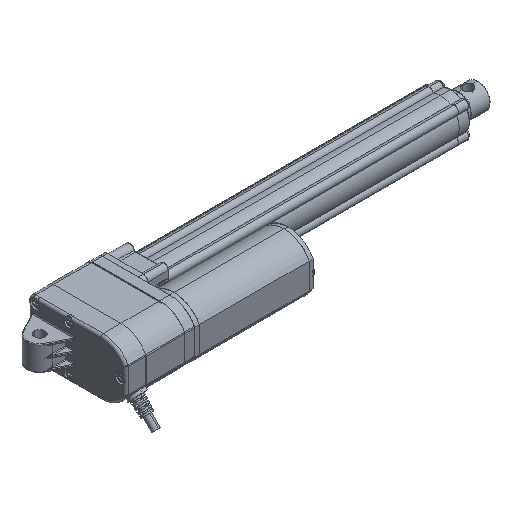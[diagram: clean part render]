
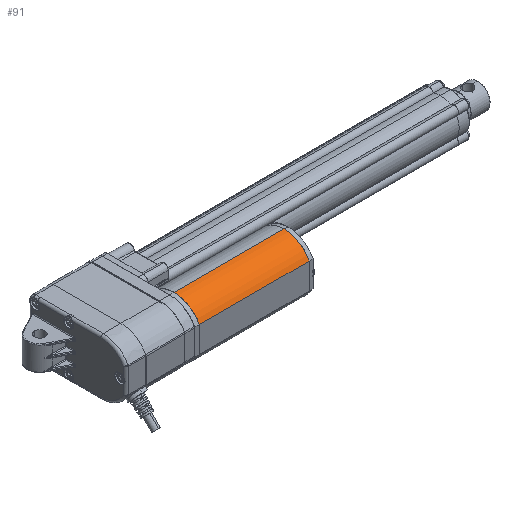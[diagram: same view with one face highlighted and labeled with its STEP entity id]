
A CAD part, isometric view. The second image highlights one B-rep face of the part: STEP entity #91.
In plain terms, the highlighted cylindrical face has radius 22.5 mm (diameter 45 mm), a partial arc.
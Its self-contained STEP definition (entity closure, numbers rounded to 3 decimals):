
#91=ADVANCED_FACE('',(#868),#869,.T.);
#868=FACE_OUTER_BOUND('',#2414,.T.);
#869=CYLINDRICAL_SURFACE('',#2415,22.5);
#2414=EDGE_LOOP('',(#7332,#7333,#7334,#7335));
#2415=AXIS2_PLACEMENT_3D('',#7336,#7337,#7338);
#7332=ORIENTED_EDGE('',*,*,#13163,.F.);
#7333=ORIENTED_EDGE('',*,*,#13164,.T.);
#7334=ORIENTED_EDGE('',*,*,#13165,.T.);
#7335=ORIENTED_EDGE('',*,*,#13166,.T.);
#7336=CARTESIAN_POINT('',(129.995,-37.35,0.));
#7337=DIRECTION('',(1.0,0.,0.));
#7338=DIRECTION('',(0.,0.,-1.0));
#13163=EDGE_CURVE('',#15205,#15206,#15207,.T.);
#13164=EDGE_CURVE('',#15205,#15208,#15209,.T.);
#13165=EDGE_CURVE('',#15208,#15210,#15211,.T.);
#13166=EDGE_CURVE('',#15210,#15206,#15212,.T.);
#15205=VERTEX_POINT('',#18706);
#15206=VERTEX_POINT('',#18707);
#15207=LINE('',#18708,#18709);
#15208=VERTEX_POINT('',#18710);
#15209=CIRCLE('',#18711,22.5);
#15210=VERTEX_POINT('',#18712);
#15211=LINE('',#18713,#18714);
#15212=CIRCLE('',#18715,22.5);
#18706=CARTESIAN_POINT('',(42.595,-37.35,22.5));
#18707=CARTESIAN_POINT('',(129.895,-37.35,22.5));
#18708=CARTESIAN_POINT('',(86.245,-37.35,22.5));
#18709=VECTOR('',#28567,1.0);
#18710=CARTESIAN_POINT('',(42.595,-57.35,10.308));
#18711=AXIS2_PLACEMENT_3D('',#28568,#28569,#28570);
#18712=CARTESIAN_POINT('',(129.895,-57.35,10.308));
#18713=CARTESIAN_POINT('',(129.995,-57.35,10.308));
#18714=VECTOR('',#28571,1000.0);
#18715=AXIS2_PLACEMENT_3D('',#28572,#28573,#28574);
#28567=DIRECTION('',(1.0,0.,0.));
#28568=CARTESIAN_POINT('',(42.595,-37.35,0.));
#28569=DIRECTION('',(1.0,0.,0.));
#28570=DIRECTION('',(0.,0.,-1.0));
#28571=DIRECTION('',(1.0,0.,0.));
#28572=CARTESIAN_POINT('',(129.895,-37.35,0.));
#28573=DIRECTION('',(-1.0,0.,0.));
#28574=DIRECTION('',(0.,0.,-1.0));
